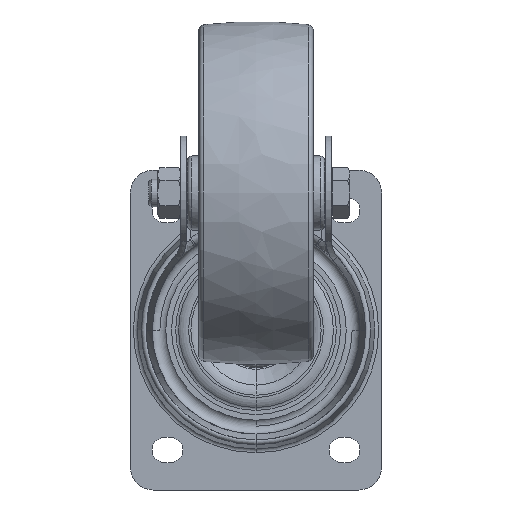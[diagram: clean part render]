
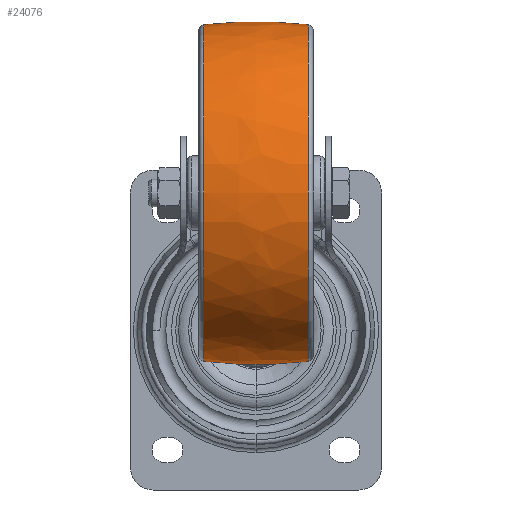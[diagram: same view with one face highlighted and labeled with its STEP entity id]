
A CAD part, front view. The second image highlights one B-rep face of the part: STEP entity #24076.
In plain terms, the highlighted free-form (B-spline) face has degree [3, 3] with [7, 4] control points.
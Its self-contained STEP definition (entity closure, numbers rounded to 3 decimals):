
#335 = CARTESIAN_POINT ( 'NONE',  ( 7.935, -46.445, 75.472 ) ) ;
#925 = CARTESIAN_POINT ( 'NONE',  ( -23.692, -73.447, -4.621 ) ) ;
#1131 = AXIS2_PLACEMENT_3D ( 'NONE', #39244, #3806, #45839 ) ;
#3806 = DIRECTION ( 'NONE',  ( 1., 0., 0. ) ) ;
#4704 = DIRECTION ( 'NONE',  ( 0., 0., 1. ) ) ;
#5098 = CARTESIAN_POINT ( 'NONE',  ( 0., -125., 0. ) ) ;
#5238 = CARTESIAN_POINT ( 'NONE',  ( -7.935, -75.323, -4.739 ) ) ;
#8505 = EDGE_CURVE ( 'NONE', #34116, #40134, #16295, .T. ) ;
#9500 = CARTESIAN_POINT ( 'NONE',  ( 7.935, 78.239, 41.615 ) ) ;
#9689 = CARTESIAN_POINT ( 'NONE',  ( -7.935, -78.239, 41.615 ) ) ;
#10627 = ORIENTED_EDGE ( 'NONE', *, *, #8505, .F. ) ;
#11323 = ORIENTED_EDGE ( 'NONE', *, *, #57351, .F. ) ;
#11773 = CIRCLE ( 'NONE', #22420, 73.698 ) ;
#13253 = ORIENTED_EDGE ( 'NONE', *, *, #35753, .T. ) ;
#13284 = CARTESIAN_POINT ( 'NONE',  ( 22.785, -73.698, 0. ) ) ;
#13791 = CARTESIAN_POINT ( 'NONE',  ( 7.935, 75.323, -4.739 ) ) ;
#14381 = CARTESIAN_POINT ( 'NONE',  ( -7.935, 78.239, 41.615 ) ) ;
#14567 = CARTESIAN_POINT ( 'NONE',  ( 7.935, 46.445, 75.472 ) ) ;
#16295 = CIRCLE ( 'NONE', #16397, 200. ) ;
#16397 = AXIS2_PLACEMENT_3D ( 'NONE', #23053, #22679, #44661 ) ;
#16559 = DIRECTION ( 'NONE',  ( 1., 0., 0. ) ) ;
#17192 = AXIS2_PLACEMENT_3D ( 'NONE', #5098, #4704, #35815 ) ;
#17890 = VERTEX_POINT ( 'NONE', #52367 ) ;
#18300 = CARTESIAN_POINT ( 'NONE',  ( -7.935, 75.323, -4.739 ) ) ;
#18492 = CARTESIAN_POINT ( 'NONE',  ( 23.692, 45.288, 73.592 ) ) ;
#22420 = AXIS2_PLACEMENT_3D ( 'NONE', #43622, #16559, #52217 ) ;
#22604 = CARTESIAN_POINT ( 'NONE',  ( -7.935, 0., 75.472 ) ) ;
#22679 = DIRECTION ( 'NONE',  ( 0., 0., -1. ) ) ;
#23053 = CARTESIAN_POINT ( 'NONE',  ( 0., 125., 0. ) ) ;
#24076 = ADVANCED_FACE ( 'NONE', ( #31495 ), #39235, .T. ) ;
#24850 = VERTEX_POINT ( 'NONE', #48582 ) ;
#27040 = CARTESIAN_POINT ( 'NONE',  ( 23.692, 76.29, 40.578 ) ) ;
#27227 = CARTESIAN_POINT ( 'NONE',  ( 7.935, -78.239, 41.615 ) ) ;
#27333 = ORIENTED_EDGE ( 'NONE', *, *, #36111, .T. ) ;
#27429 = CARTESIAN_POINT ( 'NONE',  ( 23.692, -76.29, 40.578 ) ) ;
#27607 = CARTESIAN_POINT ( 'NONE',  ( -23.692, -45.288, 73.592 ) ) ;
#31495 = FACE_OUTER_BOUND ( 'NONE', #33455, .T. ) ;
#31506 = CARTESIAN_POINT ( 'NONE',  ( 7.935, -75.323, -4.739 ) ) ;
#32274 = CARTESIAN_POINT ( 'NONE',  ( -23.692, 73.447, -4.621 ) ) ;
#33455 = EDGE_LOOP ( 'NONE', ( #27333, #10627, #11323, #13253 ) ) ;
#34116 = VERTEX_POINT ( 'NONE', #13284 ) ;
#34345 = CIRCLE ( 'NONE', #1131, 73.698 ) ;
#35753 = EDGE_CURVE ( 'NONE', #17890, #24850, #49743, .T. ) ;
#35815 = DIRECTION ( 'NONE',  ( 0.114, 0.993, 0. ) ) ;
#36111 = EDGE_CURVE ( 'NONE', #24850, #40134, #34345, .T. ) ;
#36346 = CARTESIAN_POINT ( 'NONE',  ( 23.692, 0., 73.592 ) ) ;
#36531 = CARTESIAN_POINT ( 'NONE',  ( -7.935, -46.445, 75.472 ) ) ;
#39235 =( BOUNDED_SURFACE ( )  B_SPLINE_SURFACE ( 3, 3, ( 
 ( #32274, #18300, #13791, #45725 ),
 ( #50023, #14381, #9500, #27040 ),
 ( #44953, #49831, #14567, #18492 ),
 ( #49645, #22604, #45150, #36346 ),
 ( #27607, #36531, #335, #49442 ),
 ( #54137, #9689, #27227, #27429 ),
 ( #925, #5238, #31506, #40867 ) ),
 .UNSPECIFIED., .F., .F., .F. ) 
 B_SPLINE_SURFACE_WITH_KNOTS ( ( 4, 3, 4 ),
 ( 4, 4 ),
 ( 0., 1., 2. ),
 ( 0., 1. ),
 .UNSPECIFIED. ) 
 GEOMETRIC_REPRESENTATION_ITEM ( )  RATIONAL_B_SPLINE_SURFACE ( (
 ( 1.191, 1.186, 1.186, 1.191),
 ( 0.941, 0.936, 0.936, 0.941),
 ( 0.941, 0.936, 0.936, 0.941),
 ( 1.191, 1.186, 1.186, 1.191),
 ( 0.941, 0.936, 0.936, 0.941),
 ( 0.941, 0.936, 0.936, 0.941),
 ( 1.191, 1.186, 1.186, 1.191) ) ) 
 REPRESENTATION_ITEM ( '' )  SURFACE ( )  );
#39244 = CARTESIAN_POINT ( 'NONE',  ( -22.785, 0., 0. ) ) ;
#40134 = VERTEX_POINT ( 'NONE', #51122 ) ;
#40867 = CARTESIAN_POINT ( 'NONE',  ( 23.692, -73.447, -4.621 ) ) ;
#43622 = CARTESIAN_POINT ( 'NONE',  ( 22.785, 0., 0. ) ) ;
#44661 = DIRECTION ( 'NONE',  ( 0.114, -0.993, 0. ) ) ;
#44953 = CARTESIAN_POINT ( 'NONE',  ( -23.692, 45.288, 73.592 ) ) ;
#45150 = CARTESIAN_POINT ( 'NONE',  ( 7.935, 0., 75.472 ) ) ;
#45725 = CARTESIAN_POINT ( 'NONE',  ( 23.692, 73.447, -4.621 ) ) ;
#45839 = DIRECTION ( 'NONE',  ( 0., 1., 0. ) ) ;
#48582 = CARTESIAN_POINT ( 'NONE',  ( -22.785, 73.698, 0. ) ) ;
#49442 = CARTESIAN_POINT ( 'NONE',  ( 23.692, -45.288, 73.592 ) ) ;
#49645 = CARTESIAN_POINT ( 'NONE',  ( -23.692, 0., 73.592 ) ) ;
#49743 = CIRCLE ( 'NONE', #17192, 200. ) ;
#49831 = CARTESIAN_POINT ( 'NONE',  ( -7.935, 46.445, 75.472 ) ) ;
#50023 = CARTESIAN_POINT ( 'NONE',  ( -23.692, 76.29, 40.578 ) ) ;
#51122 = CARTESIAN_POINT ( 'NONE',  ( -22.785, -73.698, 0. ) ) ;
#52217 = DIRECTION ( 'NONE',  ( 0., 1., 0. ) ) ;
#52367 = CARTESIAN_POINT ( 'NONE',  ( 22.785, 73.698, 0. ) ) ;
#54137 = CARTESIAN_POINT ( 'NONE',  ( -23.692, -76.29, 40.578 ) ) ;
#57351 = EDGE_CURVE ( 'NONE', #17890, #34116, #11773, .T. ) ;
